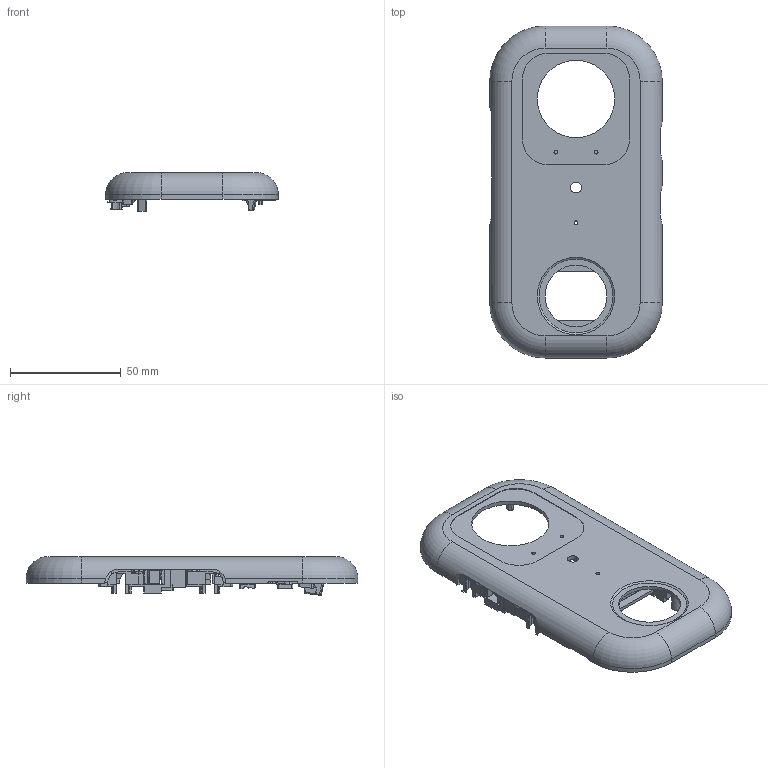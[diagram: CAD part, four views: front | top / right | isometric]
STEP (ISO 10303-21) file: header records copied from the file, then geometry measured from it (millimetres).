
FILE_DESCRIPTION(('Open CASCADE Model'),'2;1');
FILE_NAME('Open CASCADE Shape Model','2026-09-16T15:50:04',('Author'),( 'Open CASCADE'),'Open CASCADE STEP processor 7.7','Open CASCADE 7.7' ,'Unknown');
FILE_SCHEMA(('AUTOMOTIVE_DESIGN { 1 0 10303 214 1 1 1 1 }'));
Length unit declared in the file: millimetre
Products named in the file (1): COMPOUND
Bounding box: 78 x 150 x 17.51 mm (x, y, z)
Volume: 33601.2 mm3; surface area: 35005.4 mm2
Topology: 1 solids, 1 shells, 2227 faces, 6317 edges, 4100 vertices
Faces by surface type: plane 1185, cylinder 528, sphere 237, bspline 155, torus 113, cone 9
Full cylindrical faces by diameter (mm): 1.65 x2, 1.7 x9, 1.8 x5, 1.85 x1, 2.1 x4, 2.2 x5, 3 x1, 4.2 x2, 4.9 x1, 6 x1, 27.9 x1, 35 x1
Entity records: 275703 total; most frequent: CARTESIAN_POINT 160579, DIRECTION 18374, ORIENTED_EDGE 12626, PCURVE 12626, DEFINITIONAL_REPRESENTATION 12626, LINE 9608, VECTOR 9608, EDGE_CURVE 6313
